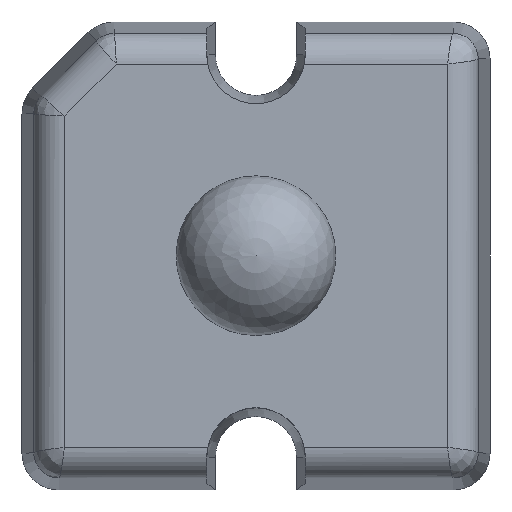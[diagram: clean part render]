
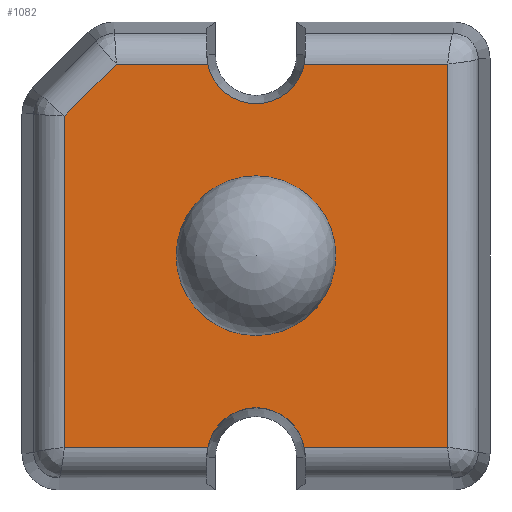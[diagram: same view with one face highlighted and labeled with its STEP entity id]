
A CAD part, top view. The second image highlights one B-rep face of the part: STEP entity #1082.
In plain terms, the highlighted planar face has unit normal (0, 0, 1).
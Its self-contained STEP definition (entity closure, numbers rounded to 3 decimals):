
#47=FACE_BOUND('',#410,.T.);
#64=CIRCLE('',#1203,0.8);
#66=CIRCLE('',#1210,0.8);
#67=CIRCLE('',#1211,1.3);
#97=LINE('',#1848,#205);
#98=LINE('',#1882,#206);
#99=LINE('',#1884,#207);
#100=LINE('',#1886,#208);
#101=LINE('',#1888,#209);
#102=LINE('',#1892,#210);
#103=LINE('',#1893,#211);
#205=VECTOR('',#1333,10.);
#206=VECTOR('',#1336,10.);
#207=VECTOR('',#1337,10.);
#208=VECTOR('',#1338,10.);
#209=VECTOR('',#1339,10.);
#210=VECTOR('',#1342,10.);
#211=VECTOR('',#1343,10.);
#343=FACE_OUTER_BOUND('',#409,.T.);
#409=EDGE_LOOP('',(#769,#770,#771,#772,#773,#774,#775,#776,#777));
#410=EDGE_LOOP('',(#778));
#482=VERTEX_POINT('',#1813);
#485=VERTEX_POINT('',#1822);
#492=VERTEX_POINT('',#1847);
#493=VERTEX_POINT('',#1881);
#494=VERTEX_POINT('',#1883);
#495=VERTEX_POINT('',#1885);
#496=VERTEX_POINT('',#1887);
#497=VERTEX_POINT('',#1889);
#498=VERTEX_POINT('',#1891);
#499=VERTEX_POINT('',#1894);
#587=EDGE_CURVE('',#482,#485,#64,.T.);
#597=EDGE_CURVE('',#482,#492,#97,.T.);
#599=EDGE_CURVE('',#493,#485,#98,.T.);
#600=EDGE_CURVE('',#494,#493,#99,.T.);
#601=EDGE_CURVE('',#495,#494,#100,.T.);
#602=EDGE_CURVE('',#496,#495,#101,.T.);
#603=EDGE_CURVE('',#496,#497,#66,.T.);
#604=EDGE_CURVE('',#498,#497,#102,.T.);
#605=EDGE_CURVE('',#492,#498,#103,.T.);
#606=EDGE_CURVE('',#499,#499,#67,.T.);
#769=ORIENTED_EDGE('',*,*,#587,.T.);
#770=ORIENTED_EDGE('',*,*,#599,.F.);
#771=ORIENTED_EDGE('',*,*,#600,.F.);
#772=ORIENTED_EDGE('',*,*,#601,.F.);
#773=ORIENTED_EDGE('',*,*,#602,.F.);
#774=ORIENTED_EDGE('',*,*,#603,.T.);
#775=ORIENTED_EDGE('',*,*,#604,.F.);
#776=ORIENTED_EDGE('',*,*,#605,.F.);
#777=ORIENTED_EDGE('',*,*,#597,.F.);
#778=ORIENTED_EDGE('',*,*,#606,.T.);
#1037=PLANE('',#1209);
#1082=ADVANCED_FACE('',(#343,#47),#1037,.T.);
#1203=AXIS2_PLACEMENT_3D('',#1827,#1313,#1314);
#1209=AXIS2_PLACEMENT_3D('',#1880,#1334,#1335);
#1210=AXIS2_PLACEMENT_3D('',#1890,#1340,#1341);
#1211=AXIS2_PLACEMENT_3D('',#1895,#1344,#1345);
#1313=DIRECTION('center_axis',(0.,0.,-1.));
#1314=DIRECTION('ref_axis',(1.,0.,0.));
#1333=DIRECTION('',(1.,0.,0.));
#1334=DIRECTION('center_axis',(0.,0.,1.));
#1335=DIRECTION('ref_axis',(1.,0.,0.));
#1336=DIRECTION('',(1.,0.,0.));
#1337=DIRECTION('',(0.707,0.707,0.));
#1338=DIRECTION('',(0.,1.,0.));
#1339=DIRECTION('',(-1.,0.,0.));
#1340=DIRECTION('center_axis',(0.,0.,-1.));
#1341=DIRECTION('ref_axis',(1.,0.,0.));
#1342=DIRECTION('',(-1.,0.,0.));
#1343=DIRECTION('',(0.,-1.,0.));
#1344=DIRECTION('center_axis',(0.,0.,-1.));
#1345=DIRECTION('ref_axis',(-1.,0.,0.));
#1813=CARTESIAN_POINT('',(0.785,3.12,2.65));
#1822=CARTESIAN_POINT('',(-0.785,3.12,2.65));
#1827=CARTESIAN_POINT('Origin',(0.,3.275,2.65));
#1847=CARTESIAN_POINT('',(3.12,3.12,2.65));
#1848=CARTESIAN_POINT('',(1.905,3.12,2.65));
#1880=CARTESIAN_POINT('Origin',(0.,0.,2.65));
#1881=CARTESIAN_POINT('',(-2.274,3.12,2.65));
#1882=CARTESIAN_POINT('',(1.905,3.12,2.65));
#1883=CARTESIAN_POINT('',(-3.12,2.274,2.65));
#1884=CARTESIAN_POINT('',(-2.385,3.01,2.65));
#1885=CARTESIAN_POINT('',(-3.12,-3.12,2.65));
#1886=CARTESIAN_POINT('',(-3.12,1.905,2.65));
#1887=CARTESIAN_POINT('',(-0.785,-3.12,2.65));
#1888=CARTESIAN_POINT('',(-1.905,-3.12,2.65));
#1889=CARTESIAN_POINT('',(0.785,-3.12,2.65));
#1890=CARTESIAN_POINT('Origin',(0.,-3.275,2.65));
#1891=CARTESIAN_POINT('',(3.12,-3.12,2.65));
#1892=CARTESIAN_POINT('',(-1.905,-3.12,2.65));
#1893=CARTESIAN_POINT('',(3.12,-1.905,2.65));
#1894=CARTESIAN_POINT('',(1.3,0.,2.65));
#1895=CARTESIAN_POINT('Origin',(0.,0.,2.65));
